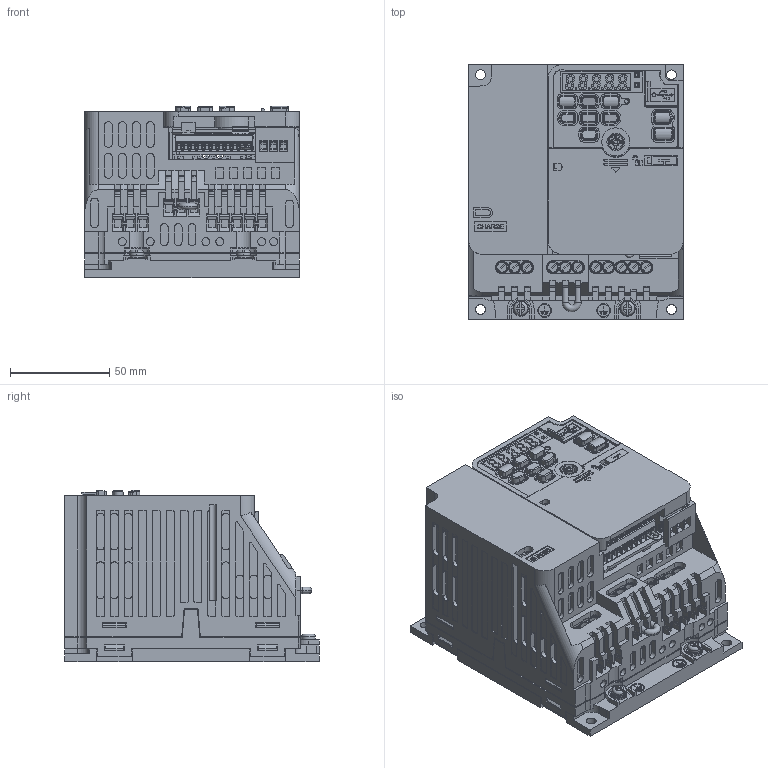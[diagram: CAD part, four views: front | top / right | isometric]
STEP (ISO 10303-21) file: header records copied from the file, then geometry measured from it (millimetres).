
FILE_DESCRIPTION((''),'2;1');
FILE_NAME('CIPR-GA50X4004AJXX_ASM','2020-01-20T',('vsetu'),('YASKAWA ELECTRIC CORCORATION'),'PRO/ENGINEER BY PARAMETRIC TECHNOLOGY CORPORATION, 2015110','PRO/ENGINEER BY PARAMETRIC TECHNOLOGY CORPORATION, 2015110','');
FILE_SCHEMA(('AUTOMOTIVE_DESIGN { 1 0 10303 214 1 1 1 1 }'));
Products named in the file (10): CIPR-GA50X4004AJXX_BODY_1; CIPR-GA50_ALL_TB; CIPR-GA50_KEYPAD; CIPR-GA50_USB_COVER; CIPR-GA50_COMMON_1; CIPR-GA50_COMMON_2; CIPR-GA50_FP; CIPR-GA50_SCREW_GND_M4X8; CIPR-GA50_COMMON_4; CIPR-GA50X4004AJXX_ASM
Assembly tree (10 placements, depth 2):
  CIPR-GA50X4004AJXX_ASM
    CIPR-GA50X4004AJXX_BODY_1
    CIPR-GA50_ALL_TB
    CIPR-GA50_KEYPAD
    CIPR-GA50_USB_COVER
    CIPR-GA50_COMMON_1
    CIPR-GA50_COMMON_2
    CIPR-GA50_FP
    CIPR-GA50_SCREW_GND_M4X8  x2
    CIPR-GA50_COMMON_4
Bounding box: 108 x 128 x 86.25 mm (x, y, z)
Volume: 819443.7 mm3; surface area: 190781.8 mm2
Topology: 12 solids, 12 shells, 6461 faces, 17272 edges, 11338 vertices
Faces by surface type: plane 5048, cylinder 1292, torus 48, bspline 34, cone 31, sphere 8
Entity records: 248470 total; most frequent: CARTESIAN_POINT 38625, ORIENTED_EDGE 34336, DIRECTION 32394, EDGE_CURVE 17168, VECTOR 14000, LINE 14000, VERTEX_POINT 11276, AXIS2_PLACEMENT_3D 9197
